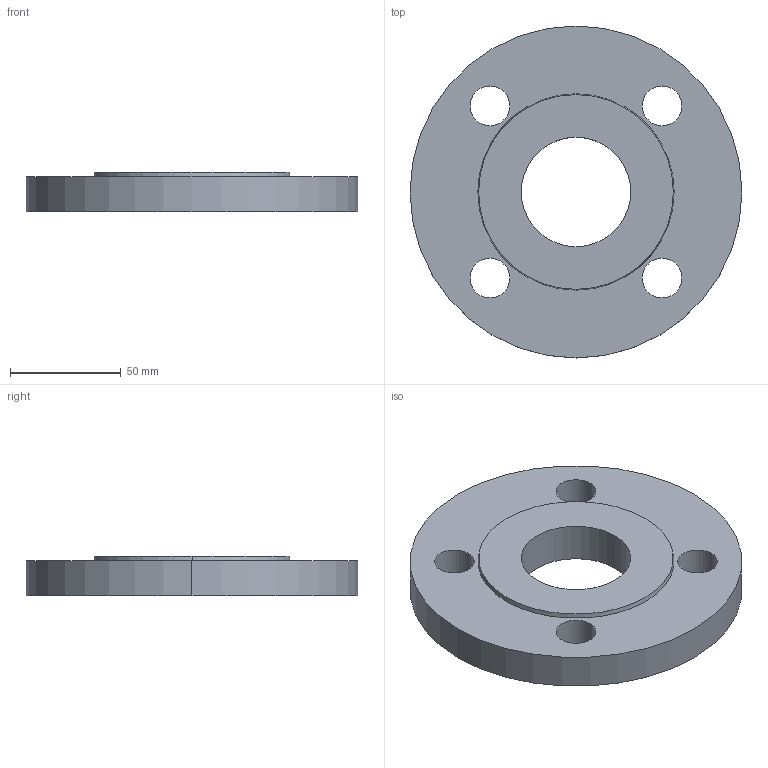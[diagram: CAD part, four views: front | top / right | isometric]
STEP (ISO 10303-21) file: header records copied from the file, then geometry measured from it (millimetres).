
FILE_DESCRIPTION (( 'STEP AP214' ), '1' );
FILE_NAME ('PN40 DN40 Type 01 - Type B Face.STEP', '2018-12-30T02:33:50', ( '' ), ( '' ), 'SwSTEP 2.0', 'SolidWorks 2019', '' );
FILE_SCHEMA (( 'AUTOMOTIVE_DESIGN' ));
Length unit declared in the file: millimetre
Products named in the file (1): PN40 DN40 Type 01 - Type B Face
Bounding box: 150 x 150 x 18 mm (x, y, z)
Volume: 244079.7 mm3; surface area: 43882.2 mm2
Topology: 1 solids, 1 shells, 17 faces, 42 edges, 28 vertices
Faces by surface type: cylinder 12, plane 3, cone 2
Entity records: 578 total; most frequent: DIRECTION 106, CARTESIAN_POINT 88, ORIENTED_EDGE 84, AXIS2_PLACEMENT_3D 46, EDGE_CURVE 42, CIRCLE 28, EDGE_LOOP 28, VERTEX_POINT 28
